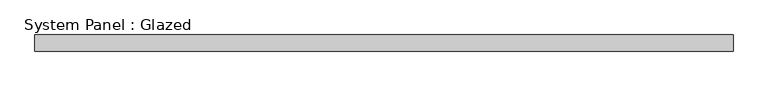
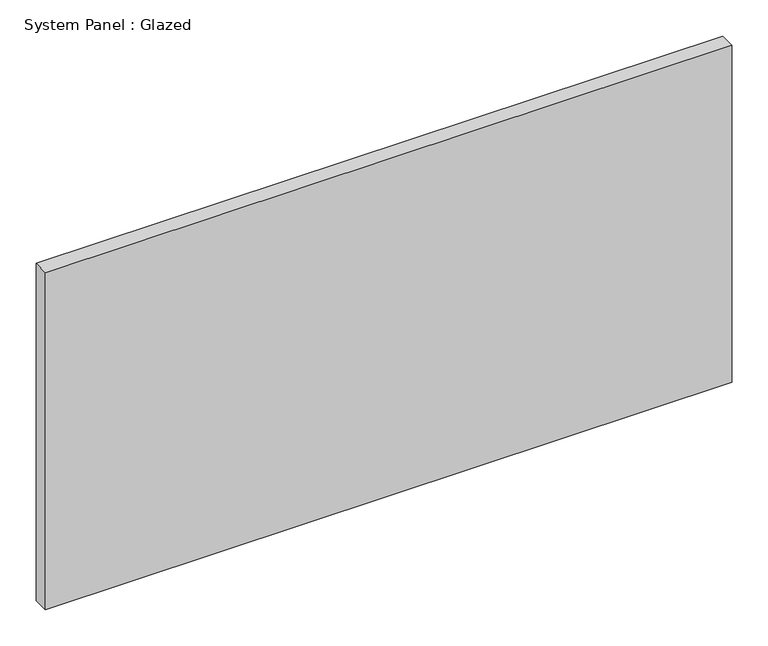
"""IFC4 building model written with IfcOpenShell, lengths in millimetres: plate geometry, System Panel : Glazed."""

from ifc_helpers import new_model, si_unit, origin, origin_with_axes, place, context, project, spatial, polyline, outline, extrude, source, transform, mapped, element, save


def system_panel_glazed_fa19e975(model_context):
    return source(origin(), model_context, "Body", "SweptSolid", [
        extrude(outline(polyline([(550.303141, 19.05), (-550.303141, 19.05), (-550.303141, 44.45), (550.303141, 44.45), (550.303141, 19.05)])), origin_with_axes(), (0.0, 0.0, 1.0), 571.5),
    ])


if __name__ == "__main__":
    model = new_model("IFC4")
    model_context = context("Model", 3, world=origin())
    ifc_project = project(units=[si_unit("LENGTHUNIT", "METRE", prefix="MILLI")], contexts=[model_context])
    site = spatial("IfcSite", under=ifc_project)
    building = spatial("IfcBuilding", under=site)
    placement = place(None, origin())
    system_panel_glazed_shape = system_panel_glazed_fa19e975(model_context)
    element("IfcPlate", 1, ObjectType="System Panel : Glazed", at=placement, inside=building, context=model_context, shape_type="MappedRepresentation", body=[
        mapped(system_panel_glazed_shape, transform((0.0, 0.0, 0.0), x_axis=(1.0, 0.0, 0.0), y_axis=(0.0, 1.0, 0.0), z_axis=(0.0, 0.0, 1.0))),
    ])
    save(model, "model.ifc")
